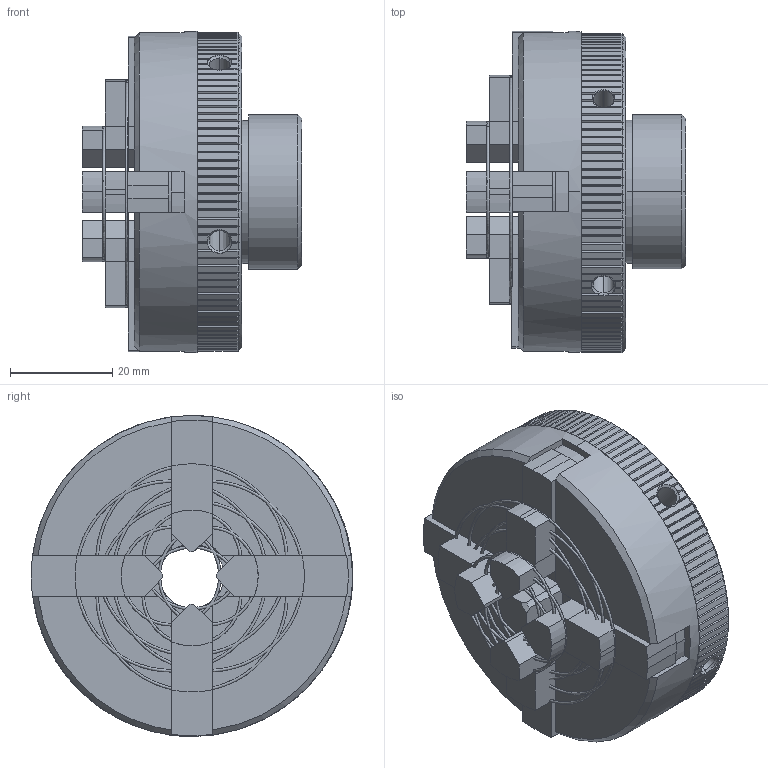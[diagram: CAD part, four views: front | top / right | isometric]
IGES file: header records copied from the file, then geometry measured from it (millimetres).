
Start section: Comment
Global section: file name: 1077.igs; native system:  By Spatial Corp.; preprocessor: XPlus PS/IGES 3.0; author: sherline; organization: Title; date: 20210512.173053; units: inch
Bounding box: 42.93 x 62.83 x 62.74 mm (x, y, z)
Volume: 68152.8 mm3; surface area: 35258.1 mm2
Topology: 6 solids, 6 shells, 883 faces, 2526 edges, 1631 vertices
Faces by surface type: plane 442, cylinder 269, cone 140, torus 32
